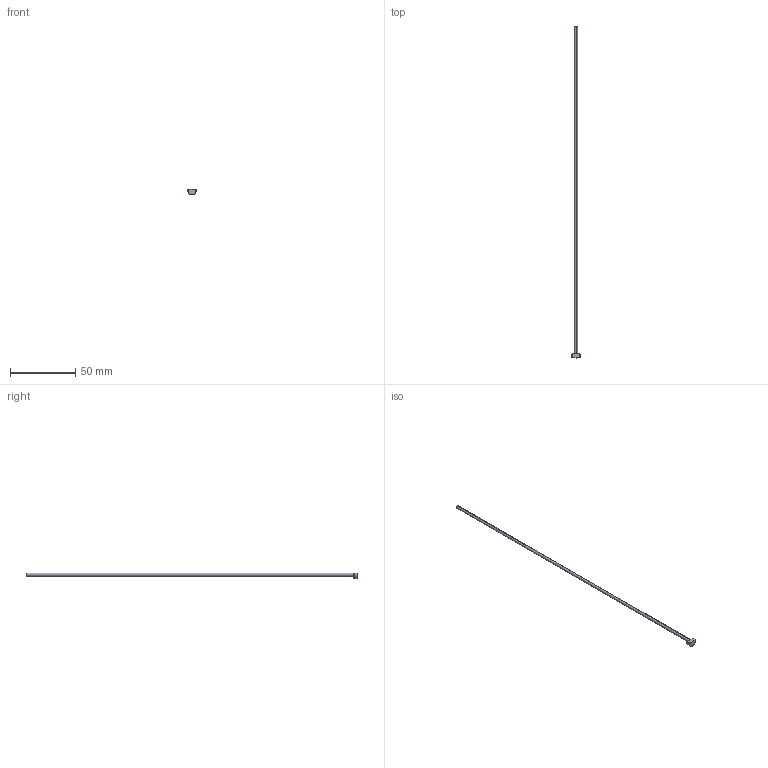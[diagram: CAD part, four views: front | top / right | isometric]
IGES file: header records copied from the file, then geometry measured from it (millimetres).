
Start section: SolidWorks IGES file using analytic representation for surfaces
Global section: file name: C:\Users\pcic_01KAK2013\OneDrive - Progressive Components\Desktop\Daily CAD\WEBSITE CAD\PRO SAVE EXPORT\M-2 Straight\EPM094L10-K.igs; native system: SolidWorks 2020; preprocessor: SolidWorks 2020; author: pcic_01KAK2013; date: 240228.151446; units: inch
Bounding box: 6.34 x 254 x 4.37 mm (x, y, z)
Surface area: 1975.3 mm2 (no closed solid volume)
Topology: 0 solids, 0 shells, 12 faces, 138 edges, 138 vertices
Faces by surface type: revolution 6, bspline 6
